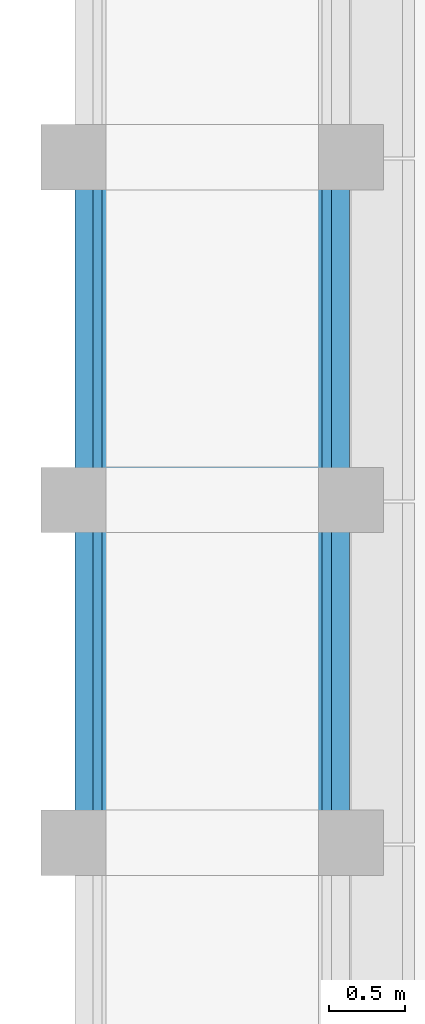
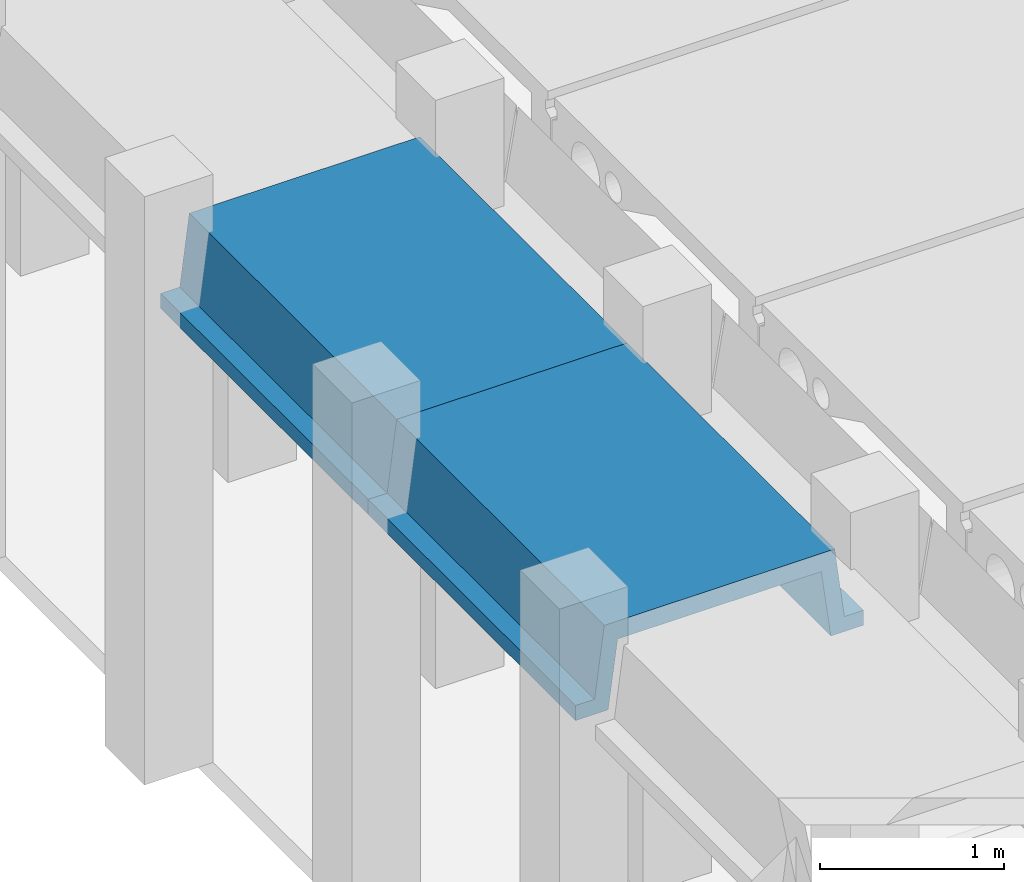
# One storey, part 13 of 21: 2 beams.
"""IFC2X3 building model written with IfcOpenShell, lengths in millimetres."""

from ifc_helpers import new_model, entity, si_unit, converted_unit, derived_unit, direction, frame, origin, place, context, subcontext, project, spatial, polyline, outline, extrude, material, type_object, element, save


model = new_model("IFC2X3")

# Units and contexts
model_context = context("Model", 3, precision=0.01, world=origin(), true_north=direction((6.12303176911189e-17, 1.0)))
body_context = subcontext(model_context, "Body", "Model", "MODEL_VIEW")
ifc_project = project(units=[si_unit("LENGTHUNIT", "METRE", prefix="MILLI"), si_unit("AREAUNIT", "SQUARE_METRE"), si_unit("VOLUMEUNIT", "CUBIC_METRE"), converted_unit("PLANEANGLEUNIT", "DEGREE", entity("IfcRatioMeasure", 0.0174532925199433), si_unit("PLANEANGLEUNIT", "RADIAN"), dimensions=[0, 0, 0, 0, 0, 0, 0]), si_unit("MASSUNIT", "GRAM", prefix="KILO"), derived_unit("MASSDENSITYUNIT", [(si_unit("MASSUNIT", "GRAM", prefix="KILO"), 1), (si_unit("LENGTHUNIT", "METRE"), -3)]), derived_unit("MOMENTOFINERTIAUNIT", [(si_unit("LENGTHUNIT", "METRE"), 4)]), si_unit("TIMEUNIT", "SECOND"), si_unit("FREQUENCYUNIT", "HERTZ"), si_unit("THERMODYNAMICTEMPERATUREUNIT", "DEGREE_CELSIUS"), derived_unit("THERMALTRANSMITTANCEUNIT", [(si_unit("MASSUNIT", "GRAM", prefix="KILO"), 1), (si_unit("THERMODYNAMICTEMPERATUREUNIT", "KELVIN"), -1), (si_unit("TIMEUNIT", "SECOND"), -3)]), derived_unit("VOLUMETRICFLOWRATEUNIT", [(si_unit("LENGTHUNIT", "METRE"), 3), (si_unit("TIMEUNIT", "SECOND"), -1)]), si_unit("ELECTRICCURRENTUNIT", "AMPERE"), si_unit("ELECTRICVOLTAGEUNIT", "VOLT"), si_unit("POWERUNIT", "WATT"), si_unit("FORCEUNIT", "NEWTON", prefix="KILO"), si_unit("ILLUMINANCEUNIT", "LUX"), si_unit("LUMINOUSFLUXUNIT", "LUMEN"), si_unit("LUMINOUSINTENSITYUNIT", "CANDELA"), derived_unit("USERDEFINED", [(si_unit("MASSUNIT", "GRAM", prefix="KILO"), -1), (si_unit("LENGTHUNIT", "METRE"), -2), (si_unit("TIMEUNIT", "SECOND"), 3), (si_unit("LUMINOUSFLUXUNIT", "LUMEN"), 1)]), derived_unit("LINEARVELOCITYUNIT", [(si_unit("LENGTHUNIT", "METRE"), 1), (si_unit("TIMEUNIT", "SECOND"), -1)]), si_unit("PRESSUREUNIT", "PASCAL"), derived_unit("USERDEFINED", [(si_unit("LENGTHUNIT", "METRE"), -2), (si_unit("MASSUNIT", "GRAM", prefix="KILO"), 1), (si_unit("TIMEUNIT", "SECOND"), -2)]), derived_unit("LINEARFORCEUNIT", [(si_unit("MASSUNIT", "GRAM", prefix="KILO"), 1), (si_unit("LENGTHUNIT", "METRE"), 1), (si_unit("TIMEUNIT", "SECOND"), -2), (si_unit("LENGTHUNIT", "METRE"), -1)]), derived_unit("PLANARFORCEUNIT", [(si_unit("MASSUNIT", "GRAM", prefix="KILO"), 1), (si_unit("LENGTHUNIT", "METRE"), 1), (si_unit("TIMEUNIT", "SECOND"), -2), (si_unit("LENGTHUNIT", "METRE"), -2)])], contexts=[model_context])

# Site, building, storey
site_placement = place(None, frame((10627.5135316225, 21939.0796949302, 0.0)))
site = spatial("IfcSite", under=ifc_project, at=site_placement, Name="Default", CompositionType="ELEMENT")
building_placement = place(site_placement, origin())
building = spatial("IfcBuilding", under=site, at=building_placement, CompositionType="ELEMENT")
storey_placement = place(building_placement, frame((0.0, 0.0, 7320.0)))
storey = spatial("IfcBuildingStorey", under=building, at=storey_placement, Name="R+2", CompositionType="ELEMENT", Elevation=7320.0)

# Beams
ifc_material = material(Name="Concrete, Precast Smooth, Light Grey")
beam_type = type_object("IfcBeamType", Name="Poutre petite:Poutre petite", PredefinedType="NOTDEFINED")
beam_1_placement = place(storey_placement, frame((29897.4864683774, 7440.92030506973, 3530.0), z_axis=(0.0, 0.0, 1.0), x_axis=(0.0, 1.0, 0.0)))
element("IfcBeam", 1, at=beam_1_placement, inside=storey, type_object=beam_type, material=ifc_material, Name="Poutre petite:Poutre petite", ObjectType="Poutre petite:Poutre petite", context=body_context, shape_type="SweptSolid", body=[
    extrude(outline(polyline([(103.333217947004, -905.014058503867), (203.333564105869, -905.014058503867), (203.333564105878, -700.013543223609), (-246.666782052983, -640.013497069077), (-246.666782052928, 640.013684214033), (203.333564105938, 700.013730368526), (203.333564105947, 905.01368421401), (103.333217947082, 905.013684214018), (103.333217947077, 785.013684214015), (-366.666782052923, 725.013684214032), (-366.666782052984, -725.01349706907), (103.333217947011, -785.013497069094), (103.333217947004, -905.014058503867)])), frame((0.0, 0.00018714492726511, -366.666782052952), z_axis=(1.0, 0.0, 0.0), x_axis=(0.0, 0.0, -1.0)), (0.0, 0.0, 1.0), 2260.0),
])
beam_2_placement = place(storey_placement, frame((29897.4864683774, 5180.92030506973, 3530.0), z_axis=(0.0, 0.0, 1.0), x_axis=(0.0, 1.0, 0.0)))
element("IfcBeam", 2, at=beam_2_placement, inside=storey, type_object=beam_type, material=ifc_material, Name="Poutre petite:Poutre petite", ObjectType="Poutre petite:Poutre petite", context=body_context, shape_type="SweptSolid", body=[
    extrude(outline(polyline([(103.333217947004, -905.014058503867), (203.333564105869, -905.014058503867), (203.333564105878, -700.013543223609), (-246.666782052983, -640.013497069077), (-246.666782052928, 640.013684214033), (203.333564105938, 700.013730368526), (203.333564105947, 905.01368421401), (103.333217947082, 905.013684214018), (103.333217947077, 785.013684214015), (-366.666782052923, 725.013684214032), (-366.666782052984, -725.01349706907), (103.333217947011, -785.013497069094), (103.333217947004, -905.014058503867)])), frame((0.0, 0.000187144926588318, -366.666782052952), z_axis=(1.0, 0.0, 0.0), x_axis=(0.0, 0.0, -1.0)), (0.0, 0.0, 1.0), 2260.0),
])

save(model, "model.ifc")
